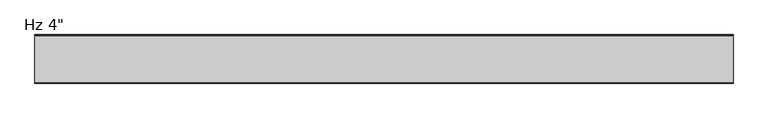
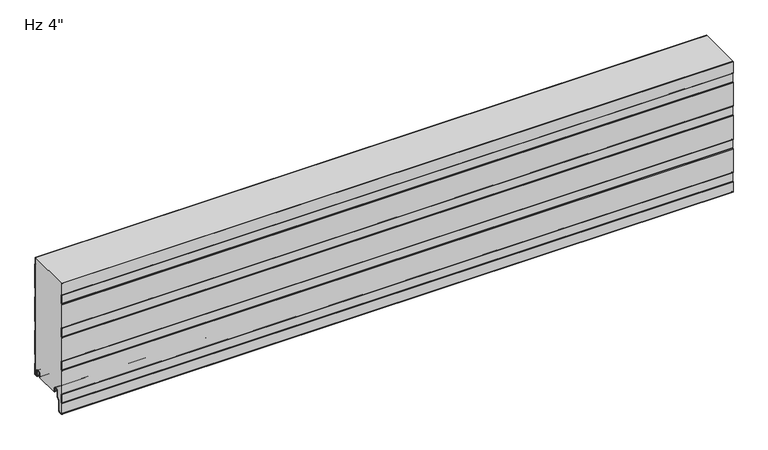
"""IFC4 building model written with IfcOpenShell, lengths in millimetres: plate geometry."""

from ifc_helpers import new_model, si_unit, point, frame, frame_2d, origin, place, context, project, spatial, polyline, circle_curve, trimmed, segment, composite_curve, outline, extrude, source, transform, mapped, element, save
from ifc_brep_helpers import plane_surface, cylinder_surface, revolved_surface, advanced_brep


def plate_297fe0cb(model_context):
    return source(origin(), model_context, "Body", "SolidModel", [
        advanced_brep(
        [(-730.0, -17.0015159, 2.0313088), (-730.0, -18.0015191, 1.0313116), (-730.0, -19.0015105, 2.0313088), (-730.0, -19.0015105, 6.0315125), (-730.0, -18.0015159, 6.0315125), (-730.0, -18.0015159, 8.7237223), (-730.0, -14.7015202, 12.023718), (-730.0, -10.301529, 12.023718), (-730.0, -7.0015335, 8.7237225), (-730.0, -7.0015335, -1.6962564), (-730.0, -5.2315393, -3.4662506), (-730.0, -0.9999916, -3.4662506), (-730.0, -0.9999916, 21.034026), (-730.0, -2.2002307, 22.4196686), (-730.0, -2.2002307, 41.7948349), (-730.0, -1.0, 43.1804679), (-730.0, -1.0, 97.2338833), (-730.0, -2.2002307, 98.6195162), (-730.0, -2.2002307, 117.9946825), (-730.0, -1.0, 119.3803155), (-730.0, -1.0, 173.4337309), (-730.0, -2.2002307, 174.8193638), (-730.0, -2.2002307, 194.1945301), (-730.0, -1.0, 195.5801631), (-730.0, -1.0, 249.6335785), (-730.0, -2.2002307, 251.0192114), (-730.0, -2.2002307, 266.4), (-730.0, -1.2002307, 266.4), (-730.0, -1.2002307, 251.3920919), (-730.0, -0.3417885, 250.4010442), (-730.0, 0.0, 249.4844273), (-730.0, 0.0, 195.7293142), (-730.0, -0.3417885, 194.8126973), (-730.0, -1.2002307, 193.8216497), (-730.0, -1.2002307, 175.1922443), (-730.0, -0.3417885, 174.2011966), (-730.0, 0.0, 173.2845797), (-730.0, 0.0, 119.5294666), (-730.0, -0.3417885, 118.6128497), (-730.0, -1.2002307, 117.6218021), (-730.0, -1.2002307, 98.9923967), (-730.0, -0.3417885, 98.001349), (-730.0, 0.0, 97.0847321), (-730.0, 0.0, 43.329619), (-730.0, -0.3417885, 42.4130021), (-730.0, -1.2002307, 41.4219545), (-730.0, -1.2002307, 22.7925491), (-730.0, -0.3417885, 21.8015014), (-730.0, 0.0, 20.8847931), (-730.0, 8.4e-06, -3.0662545), (-730.0, -1.3999878, -4.4662506), (-730.0, -5.2315393, -4.4662506), (-730.0, -8.0015335, -1.6962564), (-730.0, -8.0015335, 8.7237225), (-730.0, -10.301529, 11.023718), (-730.0, -14.7015202, 11.023718), (-730.0, -17.0015159, 8.7237223), (730.0, -17.0015159, 2.0313088), (730.0, -17.0015159, 8.7237223), (730.0, -14.7015202, 11.023718), (730.0, -10.301529, 11.023718), (730.0, -8.0015335, 8.7237225), (730.0, -8.0015335, -1.6962564), (730.0, -5.2315393, -4.4662506), (730.0, -1.3999878, -4.4662506), (730.0, 8.4e-06, -3.0662545), (730.0, 8.4e-06, 20.8848845), (730.0, -0.3417885, 21.8015014), (730.0, -1.2002307, 22.7925491), (730.0, -1.2002307, 41.4219545), (730.0, -0.3417885, 42.4130021), (730.0, 0.0, 43.329619), (730.0, 0.0, 97.0847321), (730.0, -0.3417885, 98.001349), (730.0, -1.2002307, 98.9923967), (730.0, -1.2002307, 117.6218021), (730.0, -0.3417885, 118.6128497), (730.0, 0.0, 119.5294666), (730.0, 0.0, 173.2845797), (730.0, -0.3417885, 174.2011966), (730.0, -1.2002307, 175.1922443), (730.0, -1.2002307, 193.8216497), (730.0, -0.3417885, 194.8126973), (730.0, 0.0, 195.7293142), (730.0, 0.0, 249.4844273), (730.0, -0.3417885, 250.4010442), (730.0, -1.2002307, 251.3920919), (730.0, -1.2002307, 266.4), (730.0, -2.2002307, 266.4), (730.0, -2.2002307, 251.0192114), (730.0, -1.0, 249.6335785), (730.0, -1.0, 195.5801631), (730.0, -2.2002307, 194.1945301), (730.0, -2.2002307, 174.8193638), (730.0, -1.0, 173.4337309), (730.0, -1.0, 119.3803155), (730.0, -2.2002307, 117.9946825), (730.0, -2.2002307, 98.6195162), (730.0, -1.0, 97.2338833), (730.0, -1.0, 43.1804679), (730.0, -2.2002307, 41.7948349), (730.0, -2.2002307, 22.4196686), (730.0, -0.9999916, 21.034026), (730.0, -0.9999916, -3.4662506), (730.0, -5.2315393, -3.4662506), (730.0, -7.0015335, -1.6962564), (730.0, -7.0015335, 8.7237225), (730.0, -10.301529, 12.023718), (730.0, -14.7015202, 12.023718), (730.0, -18.0015159, 8.7237223), (730.0, -18.0015159, 6.0315125), (730.0, -19.0015105, 6.0315125), (730.0, -19.0015105, 2.0313088), (730.0, -18.0015192, 1.0313116)],
        [
            (0, 1, circle_curve(frame((-730.0, -18.0015132, 2.0313088), z_axis=(-1.0, 0.0, 0.0), x_axis=(0.0, 0.0, 1.0)), 0.9999973)),
            (1, 2, circle_curve(frame((-730.0, -18.0015133, 2.0313088), z_axis=(-1.0, 0.0, 0.0), x_axis=(0.0, 0.0, 1.0)), 0.9999972)),
            (2, 3),
            (3, 4),
            (4, 5),
            (5, 6, circle_curve(frame((-730.0, -14.7015202, 8.7237223), z_axis=(-1.0, 0.0, 0.0), x_axis=(0.0, 0.0, 1.0)), 3.2999957)),
            (6, 7),
            (7, 8, circle_curve(frame((-730.0, -10.301529, 8.7237225), z_axis=(-1.0, 0.0, 0.0), x_axis=(0.0, 0.0, 1.0)), 3.2999955)),
            (8, 9),
            (9, 10, circle_curve(frame((-730.0, -5.2315393, -1.6962564), z_axis=(1.0, 0.0, 0.0), x_axis=(0.0, 0.0, 1.0)), 1.7699942)),
            (10, 11),
            (11, 12),
            (12, 13),
            (13, 14),
            (14, 15),
            (15, 16),
            (16, 17),
            (17, 18),
            (18, 19),
            (19, 20),
            (20, 21),
            (21, 22),
            (22, 23),
            (23, 24),
            (24, 25),
            (25, 26),
            (26, 27),
            (27, 28),
            (28, 29),
            (29, 30, circle_curve(frame((-730.0, -1.3999972, 249.4844273), z_axis=(-1.0, 0.0, 0.0), x_axis=(0.0, 0.0, 1.0)), 1.3999972)),
            (30, 31),
            (31, 32, circle_curve(frame((-730.0, -1.3999972, 195.7293142), z_axis=(-1.0, 0.0, 0.0), x_axis=(0.0, 0.0, 1.0)), 1.3999972)),
            (32, 33),
            (33, 34),
            (34, 35),
            (35, 36, circle_curve(frame((-730.0, -1.3999972, 173.2845797), z_axis=(-1.0, 0.0, 0.0), x_axis=(0.0, 0.0, 1.0)), 1.3999972)),
            (36, 37),
            (37, 38, circle_curve(frame((-730.0, -1.3999972, 119.5294666), z_axis=(-1.0, 0.0, 0.0), x_axis=(0.0, 0.0, 1.0)), 1.3999972)),
            (38, 39),
            (39, 40),
            (40, 41),
            (41, 42, circle_curve(frame((-730.0, -1.3999972, 97.0847321), z_axis=(-1.0, 0.0, 0.0), x_axis=(0.0, 0.0, 1.0)), 1.3999972)),
            (42, 43),
            (43, 44, circle_curve(frame((-730.0, -1.3999972, 43.329619), z_axis=(-1.0, 0.0, 0.0), x_axis=(0.0, 0.0, 1.0)), 1.3999972)),
            (44, 45),
            (45, 46),
            (46, 47),
            (47, 48, circle_curve(frame((-730.0, -1.3999972, 20.8848845), z_axis=(-1.0, 0.0, 0.0), x_axis=(0.0, 0.0, 1.0)), 1.3999972)),
            (48, 49),
            (49, 50, circle_curve(frame((-730.0, -1.3999878, -3.0662545), z_axis=(-1.0, 0.0, 0.0), x_axis=(0.0, 0.0, 1.0)), 1.3999962)),
            (50, 51),
            (51, 52, circle_curve(frame((-730.0, -5.2315393, -1.6962564), z_axis=(-1.0, 0.0, 0.0), x_axis=(0.0, 0.0, 1.0)), 2.7699942)),
            (52, 53),
            (53, 54, circle_curve(frame((-730.0, -10.301529, 8.7237225), z_axis=(1.0, 0.0, 0.0), x_axis=(0.0, 0.0, 1.0)), 2.2999955)),
            (54, 55),
            (55, 56, circle_curve(frame((-730.0, -14.7015202, 8.7237223), z_axis=(1.0, 0.0, 0.0), x_axis=(0.0, 0.0, 1.0)), 2.2999957)),
            (56, 0),
            (57, 58),
            (58, 59, circle_curve(frame((730.0, -14.7015202, 8.7237223), z_axis=(-1.0, 0.0, 0.0), x_axis=(0.0, 0.0, 1.0)), 2.2999957)),
            (59, 60),
            (60, 61, circle_curve(frame((730.0, -10.301529, 8.7237225), z_axis=(-1.0, 0.0, 0.0), x_axis=(0.0, 0.0, 1.0)), 2.2999955)),
            (61, 62),
            (62, 63, circle_curve(frame((730.0, -5.2315393, -1.6962564), z_axis=(1.0, 0.0, 0.0), x_axis=(0.0, 0.0, 1.0)), 2.7699942)),
            (63, 64),
            (64, 65, circle_curve(frame((730.0, -1.3999878, -3.0662545), z_axis=(1.0, 0.0, 0.0), x_axis=(0.0, 0.0, 1.0)), 1.3999962)),
            (65, 66),
            (66, 67, circle_curve(frame((730.0, -1.3999972, 20.8848845), z_axis=(1.0, 0.0, 0.0), x_axis=(0.0, 0.0, 1.0)), 1.3999972)),
            (67, 68),
            (68, 69),
            (69, 70),
            (70, 71, circle_curve(frame((730.0, -1.3999972, 43.329619), z_axis=(1.0, 0.0, 0.0), x_axis=(0.0, 0.0, 1.0)), 1.3999972)),
            (71, 72),
            (72, 73, circle_curve(frame((730.0, -1.3999972, 97.0847321), z_axis=(1.0, 0.0, 0.0), x_axis=(0.0, 0.0, 1.0)), 1.3999972)),
            (73, 74),
            (74, 75),
            (75, 76),
            (76, 77, circle_curve(frame((730.0, -1.3999972, 119.5294666), z_axis=(1.0, 0.0, 0.0), x_axis=(0.0, 0.0, 1.0)), 1.3999972)),
            (77, 78),
            (78, 79, circle_curve(frame((730.0, -1.3999972, 173.2845797), z_axis=(1.0, 0.0, 0.0), x_axis=(0.0, 0.0, 1.0)), 1.3999972)),
            (79, 80),
            (80, 81),
            (81, 82),
            (82, 83, circle_curve(frame((730.0, -1.3999972, 195.7293142), z_axis=(1.0, 0.0, 0.0), x_axis=(0.0, 0.0, 1.0)), 1.3999972)),
            (83, 84),
            (84, 85, circle_curve(frame((730.0, -1.3999972, 249.4844273), z_axis=(1.0, 0.0, 0.0), x_axis=(0.0, 0.0, 1.0)), 1.3999972)),
            (85, 86),
            (86, 87),
            (87, 88),
            (88, 89),
            (89, 90),
            (90, 91),
            (91, 92),
            (92, 93),
            (93, 94),
            (94, 95),
            (95, 96),
            (96, 97),
            (97, 98),
            (98, 99),
            (99, 100),
            (100, 101),
            (101, 102),
            (102, 103),
            (103, 104),
            (104, 105, circle_curve(frame((730.0, -5.2315393, -1.6962564), z_axis=(-1.0, 0.0, 0.0), x_axis=(0.0, 0.0, 1.0)), 1.7699942)),
            (105, 106),
            (106, 107, circle_curve(frame((730.0, -10.301529, 8.7237225), z_axis=(1.0, 0.0, 0.0), x_axis=(0.0, 0.0, 1.0)), 3.2999955)),
            (107, 108),
            (108, 109, circle_curve(frame((730.0, -14.7015202, 8.7237223), z_axis=(1.0, 0.0, 0.0), x_axis=(0.0, 0.0, 1.0)), 3.2999957)),
            (109, 110),
            (110, 111),
            (111, 112),
            (112, 113, circle_curve(frame((730.0, -18.0015133, 2.0313088), z_axis=(1.0, 0.0, 0.0), x_axis=(0.0, 0.0, 1.0)), 0.9999972)),
            (113, 57, circle_curve(frame((730.0, -18.0015132, 2.0313088), z_axis=(1.0, 0.0, 0.0), x_axis=(0.0, 0.0, 1.0)), 0.9999973)),
            (26, 88),
            (87, 27),
            (56, 58),
            (57, 0),
            (55, 59),
            (54, 60),
            (53, 61),
            (52, 62),
            (51, 63),
            (50, 64),
            (49, 65),
            (48, 66),
            (47, 67),
            (46, 68),
            (45, 69),
            (44, 70),
            (43, 71),
            (42, 72),
            (41, 73),
            (40, 74),
            (39, 75),
            (38, 76),
            (37, 77),
            (36, 78),
            (19, 95),
            (94, 20),
            (18, 96),
            (17, 97),
            (16, 98),
            (15, 99),
            (14, 100),
            (13, 101),
            (12, 102),
            (11, 103),
            (10, 104),
            (9, 105),
            (8, 106),
            (7, 107),
            (6, 108),
            (5, 109),
            (4, 110),
            (3, 111),
            (2, 112),
            (1, 113),
            (35, 79),
            (34, 80),
            (33, 81),
            (32, 82),
            (31, 83),
            (30, 84),
            (29, 85),
            (28, 86),
            (25, 89),
            (24, 90),
            (23, 91),
            (22, 92),
            (21, 93),
        ],
        [
            plane_surface(frame((-730.0, 0.0, 533.4), z_axis=(-1.0, 0.0, 0.0), x_axis=(0.0, 1.0, 0.0))),
            plane_surface(frame((730.0, 0.0, 533.4), z_axis=(1.0, 0.0, 0.0), x_axis=(0.0, 1.0, 0.0))),
            plane_surface(frame((730.0, 10.0, 266.4), z_axis=(0.0, 0.0, 1.0), x_axis=(-1.0, 0.0, 0.0))),
            plane_surface(frame((-730.0, -17.0015159, 2.0313088), z_axis=(0.0, 1.0, 0.0), x_axis=(1.0, 0.0, 0.0))),
            revolved_surface(polyline([(730.0, -14.7015202, 11.023718), (-730.0, -14.7015202, 11.023718)]), (-730.0, -14.7015202, 8.7237223), (1.0, 0.0, 0.0)),
            plane_surface(frame((-730.0, -14.7015202, 11.023718), z_axis=(0.0, 0.0, -1.0), x_axis=(1.0, 0.0, 0.0))),
            revolved_surface(polyline([(730.0, -10.301529, 11.023717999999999), (-730.0, -10.301529, 11.023717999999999)]), (-730.0, -10.301529, 8.7237225), (1.0, 0.0, 0.0)),
            plane_surface(frame((-730.0, -8.0015335, 8.7237225), z_axis=(0.0, -1.0, 0.0), x_axis=(1.0, 0.0, 0.0))),
            cylinder_surface(frame((-730.0, -5.2315393, -1.6962564), z_axis=(-1.0, 0.0, 0.0), x_axis=(0.0, 0.0, 1.0)), 2.7699942),
            plane_surface(frame((-730.0, -5.2315393, -4.4662506), z_axis=(0.0, 0.0, -1.0), x_axis=(1.0, 0.0, 0.0))),
            cylinder_surface(frame((-730.0, -1.3999878, -3.0662545), z_axis=(-1.0, 0.0, 0.0), x_axis=(0.0, 0.0, 1.0)), 1.3999962),
            plane_surface(frame((-730.0, 8.4e-06, -3.0662545), z_axis=(0.0, 1.0, 0.0), x_axis=(1.0, 0.0, 0.0))),
            cylinder_surface(frame((-730.0, -1.3999972, 20.8848845), z_axis=(-1.0, 0.0, 0.0), x_axis=(0.0, 0.0, 1.0)), 1.3999972),
            plane_surface(frame((-730.0, -0.3417885, 21.8015014), z_axis=(0.0, 0.755864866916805, 0.6547276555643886), x_axis=(1.0, 0.0, 0.0))),
            plane_surface(frame((-730.0, -1.2002307, 32.1072518), z_axis=(0.0, 1.0, 0.0), x_axis=(1.0, 0.0, 0.0))),
            plane_surface(frame((-730.0, -1.2002307, 41.4219545), z_axis=(0.0, 0.755864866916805, -0.6547276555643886), x_axis=(1.0, 0.0, 0.0))),
            cylinder_surface(frame((-730.0, -1.3999972, 43.329619), z_axis=(-1.0, 0.0, 0.0), x_axis=(0.0, 0.0, 1.0)), 1.3999972),
            plane_surface(frame((-730.0, 0.0, 43.329619), z_axis=(0.0, 1.0, 0.0), x_axis=(1.0, 0.0, 0.0))),
            cylinder_surface(frame((-730.0, -1.3999972, 97.0847321), z_axis=(-1.0, 0.0, 0.0), x_axis=(0.0, 0.0, 1.0)), 1.3999972),
            plane_surface(frame((-730.0, -0.3417885, 98.001349), z_axis=(0.0, 0.755864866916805, 0.6547276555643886), x_axis=(1.0, 0.0, 0.0))),
            plane_surface(frame((-730.0, -1.2002307, 108.3070994), z_axis=(0.0, 1.0, 0.0), x_axis=(1.0, 0.0, 0.0))),
            plane_surface(frame((-730.0, -1.2002307, 117.6218021), z_axis=(0.0, 0.755864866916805, -0.6547276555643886), x_axis=(1.0, 0.0, 0.0))),
            cylinder_surface(frame((-730.0, -1.3999972, 119.5294666), z_axis=(-1.0, 0.0, 0.0), x_axis=(0.0, 0.0, 1.0)), 1.3999972),
            plane_surface(frame((-730.0, 0.0, 119.5294666), z_axis=(0.0, 1.0, 0.0), x_axis=(1.0, 0.0, 0.0))),
            plane_surface(frame((-730.0, -1.0, 173.4337309), z_axis=(0.0, -1.0, 0.0), x_axis=(1.0, 0.0, 0.0))),
            plane_surface(frame((-730.0, -1.0, 119.3803155), z_axis=(0.0, -0.755864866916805, 0.6547276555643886), x_axis=(1.0, 0.0, 0.0))),
            plane_surface(frame((-730.0, -2.2002307, 117.9946825), z_axis=(0.0, -1.0, 0.0), x_axis=(1.0, 0.0, 0.0))),
            plane_surface(frame((-730.0, -2.2002307, 98.6195162), z_axis=(0.0, -0.755864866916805, -0.6547276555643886), x_axis=(1.0, 0.0, 0.0))),
            plane_surface(frame((-730.0, -1.0, 97.2338833), z_axis=(0.0, -1.0, 0.0), x_axis=(1.0, 0.0, 0.0))),
            plane_surface(frame((-730.0, -1.0, 43.1804679), z_axis=(0.0, -0.755864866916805, 0.6547276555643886), x_axis=(1.0, 0.0, 0.0))),
            plane_surface(frame((-730.0, -2.2002307, 41.7948349), z_axis=(0.0, -1.0, 0.0), x_axis=(1.0, 0.0, 0.0))),
            plane_surface(frame((-730.0, -2.2002307, 22.4196686), z_axis=(0.0, -0.755864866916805, -0.6547276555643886), x_axis=(1.0, 0.0, 0.0))),
            plane_surface(frame((-730.0, -0.9999916, 21.034026), z_axis=(0.0, -1.0, 0.0), x_axis=(1.0, 0.0, 0.0))),
            plane_surface(frame((-730.0, -0.9999916, -3.4662506), z_axis=(0.0, 0.0, 1.0), x_axis=(1.0, 0.0, 0.0))),
            revolved_surface(polyline([(730.0, -5.2315393, 0.07373779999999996), (-730.0, -5.2315393, 0.07373779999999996)]), (-730.0, -5.2315393, -1.6962564), (1.0, 0.0, 0.0)),
            plane_surface(frame((-730.0, -7.0015335, -1.6962564), z_axis=(0.0, 1.0, 0.0), x_axis=(1.0, 0.0, 0.0))),
            cylinder_surface(frame((-730.0, -10.301529, 8.7237225), z_axis=(-1.0, 0.0, 0.0), x_axis=(0.0, 0.0, 1.0)), 3.2999955),
            plane_surface(frame((-730.0, -10.301529, 12.023718), z_axis=(0.0, 0.0, 1.0), x_axis=(1.0, 0.0, 0.0))),
            cylinder_surface(frame((-730.0, -14.7015202, 8.7237223), z_axis=(-1.0, 0.0, 0.0), x_axis=(0.0, 0.0, 1.0)), 3.2999957),
            plane_surface(frame((-730.0, -18.0015159, 8.7237223), z_axis=(0.0, -1.0, 0.0), x_axis=(1.0, 0.0, 0.0))),
            plane_surface(frame((-730.0, -18.0015159, 6.0315125), z_axis=(0.0, 0.0, 1.0), x_axis=(1.0, 0.0, 0.0))),
            plane_surface(frame((-730.0, -19.0015105, 6.0315125), z_axis=(0.0, -1.0, 0.0), x_axis=(1.0, 0.0, 0.0))),
            cylinder_surface(frame((-730.0, -18.0015133, 2.0313088), z_axis=(-1.0, 0.0, 0.0), x_axis=(0.0, 0.0, 1.0)), 0.9999972),
            cylinder_surface(frame((-730.0, -18.0015132, 2.0313088), z_axis=(-1.0, 0.0, 0.0), x_axis=(0.0, 0.0, 1.0)), 0.9999973),
            cylinder_surface(frame((-730.0, -1.3999972, 173.2845797), z_axis=(-1.0, 0.0, 0.0), x_axis=(0.0, 0.0, 1.0)), 1.3999972),
            plane_surface(frame((-730.0, -0.3417885, 174.2011966), z_axis=(0.0, 0.755864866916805, 0.6547276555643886), x_axis=(1.0, 0.0, 0.0))),
            plane_surface(frame((-730.0, -1.2002307, 184.506947), z_axis=(0.0, 1.0, 0.0), x_axis=(1.0, 0.0, 0.0))),
            plane_surface(frame((-730.0, -1.2002307, 193.8216497), z_axis=(0.0, 0.755864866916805, -0.6547276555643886), x_axis=(1.0, 0.0, 0.0))),
            cylinder_surface(frame((-730.0, -1.3999972, 195.7293142), z_axis=(-1.0, 0.0, 0.0), x_axis=(0.0, 0.0, 1.0)), 1.3999972),
            plane_surface(frame((-730.0, 0.0, 195.7293142), z_axis=(0.0, 1.0, 0.0), x_axis=(1.0, 0.0, 0.0))),
            cylinder_surface(frame((-730.0, -1.3999972, 249.4844273), z_axis=(-1.0, 0.0, 0.0), x_axis=(0.0, 0.0, 1.0)), 1.3999972),
            plane_surface(frame((-730.0, -0.3417885, 250.4010442), z_axis=(0.0, 0.755864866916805, 0.6547276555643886), x_axis=(1.0, 0.0, 0.0))),
            plane_surface(frame((-730.0, -1.2002307, 260.7067946), z_axis=(0.0, 1.0, 0.0), x_axis=(1.0, 0.0, 0.0))),
            plane_surface(frame((-730.0, -2.2002307, 270.3943777), z_axis=(0.0, -1.0, 0.0), x_axis=(1.0, 0.0, 0.0))),
            plane_surface(frame((-730.0, -2.2002307, 251.0192114), z_axis=(0.0, -0.755864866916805, -0.6547276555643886), x_axis=(1.0, 0.0, 0.0))),
            plane_surface(frame((-730.0, -1.0, 249.6335785), z_axis=(0.0, -1.0, 0.0), x_axis=(1.0, 0.0, 0.0))),
            plane_surface(frame((-730.0, -1.0, 195.5801631), z_axis=(0.0, -0.755864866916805, 0.6547276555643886), x_axis=(1.0, 0.0, 0.0))),
            plane_surface(frame((-730.0, -2.2002307, 194.1945301), z_axis=(0.0, -1.0, 0.0), x_axis=(1.0, 0.0, 0.0))),
            plane_surface(frame((-730.0, -2.2002307, 174.8193638), z_axis=(0.0, -0.755864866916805, -0.6547276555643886), x_axis=(1.0, 0.0, 0.0))),
        ],
        [
            (0, [[1, 2, 3, 4, 5, 6, 7, 8, 9, 10, 11, 12, 13, 14, 15, 16, 17, 18, 19, 20, 21, 22, 23, 24, 25, 26, 27, 28, 29, 30, 31, 32, 33, 34, 35, 36, 37, 38, 39, 40, 41, 42, 43, 44, 45, 46, 47, 48, 49, 50, 51, 52, 53, 54, 55, 56, 57]]),
            (1, [[58, 59, 60, 61, 62, 63, 64, 65, 66, 67, 68, 69, 70, 71, 72, 73, 74, 75, 76, 77, 78, 79, 80, 81, 82, 83, 84, 85, 86, 87, 88, 89, 90, 91, 92, 93, 94, 95, 96, 97, 98, 99, 100, 101, 102, 103, 104, 105, 106, 107, 108, 109, 110, 111, 112, 113, 114]]),
            (2, [[115, -88, 116, -27]]),
            (3, [[117, -58, 118, -57]]),
            (4, [[119, -59, -117, -56]]),
            (5, [[120, -60, -119, -55]]),
            (6, [[121, -61, -120, -54]]),
            (7, [[122, -62, -121, -53]]),
            (8, [[123, -63, -122, -52]]),
            (9, [[124, -64, -123, -51]]),
            (10, [[125, -65, -124, -50]]),
            (11, [[126, -66, -125, -49]]),
            (12, [[127, -67, -126, -48]]),
            (13, [[128, -68, -127, -47]]),
            (14, [[129, -69, -128, -46]]),
            (15, [[130, -70, -129, -45]]),
            (16, [[131, -71, -130, -44]]),
            (17, [[132, -72, -131, -43]]),
            (18, [[133, -73, -132, -42]]),
            (19, [[134, -74, -133, -41]]),
            (20, [[135, -75, -134, -40]]),
            (21, [[136, -76, -135, -39]]),
            (22, [[137, -77, -136, -38]]),
            (23, [[138, -78, -137, -37]]),
            (24, [[139, -95, 140, -20]]),
            (25, [[141, -96, -139, -19]]),
            (26, [[142, -97, -141, -18]]),
            (27, [[143, -98, -142, -17]]),
            (28, [[144, -99, -143, -16]]),
            (29, [[145, -100, -144, -15]]),
            (30, [[146, -101, -145, -14]]),
            (31, [[147, -102, -146, -13]]),
            (32, [[148, -103, -147, -12]]),
            (33, [[149, -104, -148, -11]]),
            (34, [[150, -105, -149, -10]]),
            (35, [[151, -106, -150, -9]]),
            (36, [[152, -107, -151, -8]]),
            (37, [[153, -108, -152, -7]]),
            (38, [[154, -109, -153, -6]]),
            (39, [[155, -110, -154, -5]]),
            (40, [[156, -111, -155, -4]]),
            (41, [[157, -112, -156, -3]]),
            (42, [[158, -113, -157, -2]]),
            (43, [[-118, -114, -158, -1]]),
            (44, [[159, -79, -138, -36]]),
            (45, [[160, -80, -159, -35]]),
            (46, [[161, -81, -160, -34]]),
            (47, [[162, -82, -161, -33]]),
            (48, [[163, -83, -162, -32]]),
            (49, [[164, -84, -163, -31]]),
            (50, [[165, -85, -164, -30]]),
            (51, [[166, -86, -165, -29]]),
            (52, [[-28, -116, -87, -166]]),
            (53, [[-89, -115, -26, 167]]),
            (54, [[168, -90, -167, -25]]),
            (55, [[169, -91, -168, -24]]),
            (56, [[170, -92, -169, -23]]),
            (57, [[171, -93, -170, -22]]),
            (58, [[-140, -94, -171, -21]]),
        ],
    ),
        extrude(outline(composite_curve([segment(trimmed(circle_curve(frame_2d((-100.2007733, -10.6415934)), 1.3998661), [point((-101.6006394, -10.6415934))], [point((-101.1333971, -9.5976403))], False, "CARTESIAN"), True, "CONTINUOUS"), segment(polyline([(-101.1333971, -9.5976403), (-100.4006709, -8.8649141), (-100.4006709, 10.0260713), (-101.1336365, 10.7590369)]), True, "CONTINUOUS"), segment(trimmed(circle_curve(frame_2d((-100.2009253, 11.8030877)), 1.3999972), [point((-101.1336365, 10.7590369))], [point((-101.6009016, 11.810741))], False, "CARTESIAN"), True, "CONTINUOUS"), segment(polyline([(-101.6009016, 11.810741), (-101.6009016, 65.5582542)]), True, "CONTINUOUS"), segment(trimmed(circle_curve(frame_2d((-100.2009044, 65.5582542)), 1.3999972), [point((-101.6009016, 65.5582542))], [point((-101.1336156, 66.602305))], False, "CARTESIAN"), True, "CONTINUOUS"), segment(polyline([(-101.1336156, 66.602305), (-100.4006709, 67.3352497), (-100.4006709, 86.2259189), (-101.1336365, 86.9588845)]), True, "CONTINUOUS"), segment(trimmed(circle_curve(frame_2d((-100.2009253, 88.0029353)), 1.3999972), [point((-101.1336365, 86.9588845))], [point((-101.6009016, 88.0105886))], False, "CARTESIAN"), True, "CONTINUOUS"), segment(polyline([(-101.6009016, 88.0105886), (-101.6009016, 141.7581018)]), True, "CONTINUOUS"), segment(trimmed(circle_curve(frame_2d((-100.2009044, 141.7581018)), 1.3999972), [point((-101.6009016, 141.7581018))], [point((-101.1336156, 142.8021526))], False, "CARTESIAN"), True, "CONTINUOUS"), segment(polyline([(-101.1336156, 142.8021526), (-100.4006709, 143.5350973), (-100.4006709, 162.4257665), (-101.1336365, 163.1587321)]), True, "CONTINUOUS"), segment(trimmed(circle_curve(frame_2d((-100.2009253, 164.2027829)), 1.3999972), [point((-101.1336365, 163.1587321))], [point((-101.6009016, 164.2104362))], False, "CARTESIAN"), True, "CONTINUOUS"), segment(polyline([(-101.6009016, 164.2104362), (-101.6009016, 217.9579494)]), True, "CONTINUOUS"), segment(trimmed(circle_curve(frame_2d((-100.2009044, 217.9579494)), 1.3999972), [point((-101.6009016, 217.9579494))], [point((-101.1336156, 219.0020002))], False, "CARTESIAN"), True, "CONTINUOUS"), segment(polyline([(-101.1336156, 219.0020002), (-100.4006709, 219.7349449), (-100.4006709, 238.6256141), (-101.1336365, 239.3585797)]), True, "CONTINUOUS"), segment(trimmed(circle_curve(frame_2d((-100.2009253, 240.4026305)), 1.3999972), [point((-101.1336365, 239.3585797))], [point((-101.6009016, 240.4102838))], False, "CARTESIAN"), True, "CONTINUOUS"), segment(polyline([(-101.6009016, 240.4102838), (-101.6009016, 266.4), (-100.6009016, 266.4), (-100.6009016, 240.2405326), (-99.4006709, 239.0403019), (-99.4006709, 219.3208894), (-100.6009016, 218.1206587), (-100.6009016, 164.0405269), (-99.4006709, 162.8402962), (-99.4006709, 143.1208837), (-100.6009016, 141.920653), (-100.6009016, 87.8405213), (-99.4006709, 86.6402905), (-99.4006709, 66.920878), (-100.6009016, 65.7206473), (-100.6009016, 11.6405156), (-99.4006709, 10.4402849), (-99.4006709, -9.2791277), (-100.6006394, -10.4790962), (-100.6006394, -32.4521176)]), True, "CONTINUOUS"), segment(trimmed(circle_curve(frame_2d((-98.0304001, -32.4521176)), 2.5702393), [point((-100.6006394, -32.4521176))], [point((-97.8063145, -35.0125699))], True, "CARTESIAN"), True, "CONTINUOUS"), segment(polyline([(-97.8063145, -35.0125699), (-92.8244936, -34.5765709)]), True, "CONTINUOUS"), segment(trimmed(circle_curve(frame_2d((-93.3058842, -31.9198392)), 2.6999926), [point((-92.8244936, -34.5765709))], [point((-90.6058916, -31.9198392))], True, "CARTESIAN"), True, "CONTINUOUS"), segment(polyline([(-90.6058916, -31.9198392), (-90.6058916, -9.8247096), (-85.1038205, -4.3226385)]), True, "CONTINUOUS"), segment(trimmed(circle_curve(frame_2d((-86.3058982, -3.1205608)), 1.6999946), [point((-85.1038205, -4.3226385))], [point((-84.6059036, -3.1205608))], True, "CARTESIAN"), True, "CONTINUOUS"), segment(polyline([(-84.6059036, -3.1205608), (-84.6059036, 8.6903283)]), True, "CONTINUOUS"), segment(trimmed(circle_curve(frame_2d((-81.2559083, 8.6903283)), 3.3499953), [point((-84.6059036, 8.6903283))], [point((-81.2559083, 12.0403236))], False, "CARTESIAN"), True, "CONTINUOUS"), segment(polyline([(-81.2559083, 12.0403236), (-76.8559171, 12.0403236)]), True, "CONTINUOUS"), segment(trimmed(circle_curve(frame_2d((-76.8559171, 8.6903283)), 3.3499953), [point((-76.8559171, 12.0403236))], [point((-73.5059218, 8.6903283))], False, "CARTESIAN"), True, "CONTINUOUS"), segment(polyline([(-73.5059218, 8.6903283), (-73.5059218, 5.9912173), (-72.1074429, 5.9912173), (-72.1074429, 2.2328239)]), True, "CONTINUOUS"), segment(trimmed(circle_curve(frame_2d((-73.3074396, 2.2313092)), 1.1999976), [point((-72.1074429, 2.2328239))], [point((-73.2769177, 1.0316999))], False, "CARTESIAN"), True, "CONTINUOUS"), segment(trimmed(circle_curve(frame_2d((-73.3074396, 2.2313092)), 1.1999976), [point((-73.2769177, 1.0316999))], [point((-74.5059218, 2.1710221))], False, "CARTESIAN"), True, "CONTINUOUS"), segment(polyline([(-74.5059218, 2.1710221), (-74.5059218, 8.6903283)]), True, "CONTINUOUS"), segment(trimmed(circle_curve(frame_2d((-76.8559171, 8.6903283)), 2.3499953), [point((-74.5059218, 8.6903283))], [point((-76.8559171, 11.0403236))], True, "CARTESIAN"), True, "CONTINUOUS"), segment(polyline([(-76.8559171, 11.0403236), (-81.2559083, 11.0403236)]), True, "CONTINUOUS"), segment(trimmed(circle_curve(frame_2d((-81.2559083, 8.6903283)), 2.3499953), [point((-81.2559083, 11.0403236))], [point((-83.6059036, 8.6903283))], True, "CARTESIAN"), True, "CONTINUOUS"), segment(polyline([(-83.6059036, 8.6903283), (-83.6059036, -3.1205608)]), True, "CONTINUOUS"), segment(trimmed(circle_curve(frame_2d((-86.3058982, -3.1205608)), 2.6999946), [point((-83.6059036, -3.1205608))], [point((-84.3967137, -5.0297453))], False, "CARTESIAN"), True, "CONTINUOUS"), segment(polyline([(-84.3967137, -5.0297453), (-89.2251312, -9.8581627)]), True, "CONTINUOUS"), segment(trimmed(circle_curve(frame_2d((-88.3058942, -10.7773997)), 1.2999974), [point((-89.2251312, -9.8581627))], [point((-89.6058916, -10.7773997))], True, "CARTESIAN"), True, "CONTINUOUS"), segment(polyline([(-89.6058916, -10.7773997), (-89.6058916, -31.9198392)]), True, "CONTINUOUS"), segment(trimmed(circle_curve(frame_2d((-93.3058842, -31.9198392)), 3.6999926), [point((-89.6058916, -31.9198392))], [point((-92.6950831, -35.5690675))], False, "CARTESIAN"), True, "CONTINUOUS"), segment(polyline([(-92.6950831, -35.5690675), (-97.7191297, -36.008762)]), True, "CONTINUOUS"), segment(trimmed(circle_curve(frame_2d((-98.0304001, -32.4521176)), 3.5702393), [point((-97.7191297, -36.008762))], [point((-101.6006394, -32.4521176))], False, "CARTESIAN"), True, "CONTINUOUS"), segment(polyline([(-101.6006394, -32.4521176), (-101.6006394, -10.6415934)]), True, "CONTINUOUS")], self_intersect=False)), frame((-730.0, 0.0, 0.0), z_axis=(1.0, 0.0, 0.0), x_axis=(0.0, 1.0, 0.0)), (0.0, 0.0, 1.0), 1460.0),
        extrude(outline(composite_curve([segment(trimmed(circle_curve(frame_2d((-73.3013969, 2.2313092)), 1.1999976), [point((-73.270875, 1.0316999))], [point((-72.1014003, 2.2328239))], True, "CARTESIAN"), True, "CONTINUOUS"), segment(polyline([(-72.1014003, 2.2328239), (-72.1014003, 5.9912173), (-73.4998791, 5.9912173), (-73.4998791, 8.6903283)]), True, "CONTINUOUS"), segment(trimmed(circle_curve(frame_2d((-76.8498744, 8.6903283)), 3.3499953), [point((-73.4998791, 8.6903283))], [point((-76.8498744, 12.0403236))], True, "CARTESIAN"), True, "CONTINUOUS"), segment(polyline([(-76.8498744, 12.0403236), (-81.2498656, 12.0403236)]), True, "CONTINUOUS"), segment(trimmed(circle_curve(frame_2d((-81.2498656, 8.6903283)), 3.3499953), [point((-81.2498656, 12.0403236))], [point((-84.5998609, 8.6903283))], True, "CARTESIAN"), True, "CONTINUOUS"), segment(polyline([(-84.5998609, 8.6903283), (-84.5998609, -3.1205608)]), True, "CONTINUOUS"), segment(trimmed(circle_curve(frame_2d((-86.2998555, -3.1205608)), 1.6999946), [point((-84.5998609, -3.1205608))], [point((-85.0977778, -4.3226385))], False, "CARTESIAN"), True, "CONTINUOUS"), segment(polyline([(-85.0977778, -4.3226385), (-90.5998489, -9.8247096), (-90.5998489, -31.9198392)]), True, "CONTINUOUS"), segment(trimmed(circle_curve(frame_2d((-93.2998415, -31.9198392)), 2.6999926), [point((-90.5998489, -31.9198392))], [point((-92.8184509, -34.5765709))], False, "CARTESIAN"), True, "CONTINUOUS"), segment(polyline([(-92.8184509, -34.5765709), (-97.8002718, -35.0125699)]), True, "CONTINUOUS"), segment(trimmed(circle_curve(frame_2d((-98.0243575, -32.4521176)), 2.5702393), [point((-97.8002718, -35.0125699))], [point((-100.5945967, -32.4521176))], False, "CARTESIAN"), True, "CONTINUOUS"), segment(polyline([(-100.5945967, -32.4521176), (-100.5945967, -10.4790962), (-99.3946282, -9.2791277), (-99.3946282, 10.4402849), (-100.5948589, 11.6405156), (-100.5948589, 65.7206473), (-99.3946282, 66.920878), (-99.3946282, 86.6402905), (-100.5948589, 87.8405213), (-100.5948589, 141.920653), (-99.3946282, 143.1208837), (-99.3946282, 162.8402962), (-100.5948589, 164.0405269), (-100.5948589, 218.1206587), (-99.3946282, 219.3208894), (-99.3946282, 239.0403019), (-100.5948589, 240.2405326), (-100.5948589, 266.4), (-2.2002307, 266.4), (-2.2002307, 251.0192115), (-1.0, 249.6335785), (-1.0, 195.5801631), (-2.2002307, 194.1945302), (-2.2002307, 174.8193639), (-1.0, 173.4337309), (-1.0, 119.3803155), (-2.2002307, 117.9946826), (-2.2002307, 98.6195163), (-1.0, 97.2338833), (-1.0, 43.1804679), (-2.2002307, 41.794835), (-2.2002307, 22.4196687), (-0.9999916, 21.034026), (-0.9999916, -3.4662506), (-5.2315389, -3.4662506)]), True, "CONTINUOUS"), segment(trimmed(circle_curve(frame_2d((-5.2315389, -1.6962564)), 1.7699942), [point((-5.2315389, -3.4662506))], [point((-7.0015331, -1.6962564))], False, "CARTESIAN"), True, "CONTINUOUS"), segment(polyline([(-7.0015331, -1.6962564), (-7.0015331, 8.7237222)]), True, "CONTINUOUS"), segment(trimmed(circle_curve(frame_2d((-10.301529, 8.7237222)), 3.2999959), [point((-7.0015331, 8.7237222))], [point((-10.301529, 12.023718))], True, "CARTESIAN"), True, "CONTINUOUS"), segment(polyline([(-10.301529, 12.023718), (-14.7015202, 12.023718)]), True, "CONTINUOUS"), segment(trimmed(circle_curve(frame_2d((-14.7015202, 8.7237223)), 3.2999957), [point((-14.7015202, 12.023718))], [point((-18.0015159, 8.7237223))], True, "CARTESIAN"), True, "CONTINUOUS"), segment(polyline([(-18.0015159, 8.7237223), (-18.0015159, 6.0315125), (-19.0015105, 6.0315125), (-19.0015105, 2.0313089)]), True, "CONTINUOUS"), segment(trimmed(circle_curve(frame_2d((-18.0015133, 2.0313089)), 0.9999972), [point((-19.0015105, 2.0313089))], [point((-18.0015192, 1.0313117))], True, "CARTESIAN"), True, "CONTINUOUS"), segment(polyline([(-18.0015192, 1.0313117), (-19.0328308, 0.0), (-72.2391751, 0.0), (-73.270875, 1.0316999)]), True, "CONTINUOUS")], self_intersect=False)), frame((-730.0, 0.0, 0.0), z_axis=(1.0, 0.0, 0.0), x_axis=(0.0, 1.0, 0.0)), (0.0, 0.0, 1.0), 1460.0),
    ])


if __name__ == "__main__":
    model = new_model("IFC4")
    model_context = context("Model", 3, world=origin())
    ifc_project = project(units=[si_unit("LENGTHUNIT", "METRE", prefix="MILLI")], contexts=[model_context])
    site = spatial("IfcSite", under=ifc_project)
    building = spatial("IfcBuilding", under=site)
    placement = place(None, origin())
    plate_shape = plate_297fe0cb(model_context)
    element("IfcPlate", 1, ObjectType="KIP-42-Karrier-KP-R19-CP-Hz-SL3-8in_SL : Hz 4\"", at=placement, inside=building, context=model_context, shape_type="MappedRepresentation", body=[
        mapped(plate_shape, transform((0.0, 0.0, 0.0), x_axis=(1.0, 0.0, 0.0), y_axis=(0.0, 1.0, 0.0), z_axis=(0.0, 0.0, 1.0))),
    ])
    save(model, "model.ifc")
